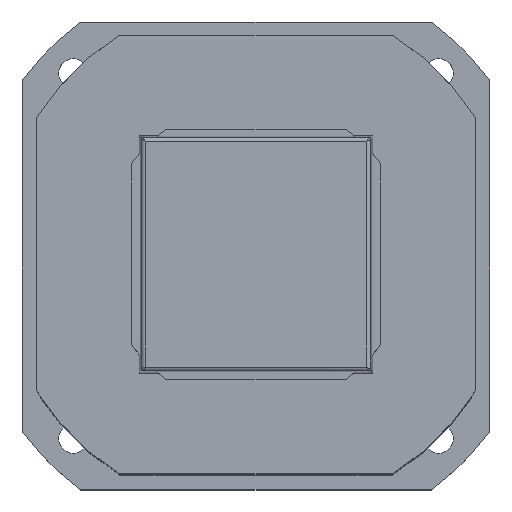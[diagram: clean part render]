
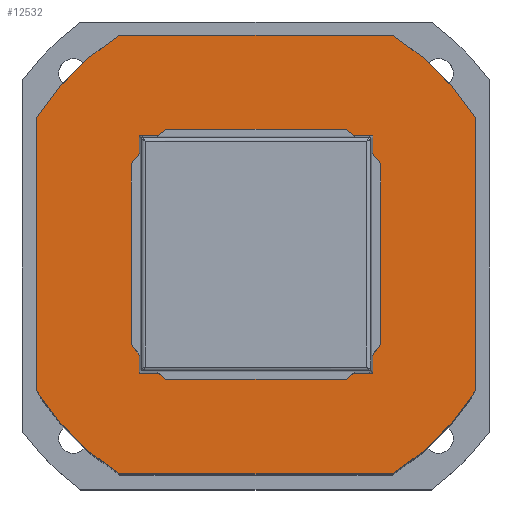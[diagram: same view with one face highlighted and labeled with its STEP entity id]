
A CAD part, top view. The second image highlights one B-rep face of the part: STEP entity #12532.
In plain terms, the highlighted planar face has unit normal (0, 0, 1).
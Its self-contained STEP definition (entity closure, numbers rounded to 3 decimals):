
#3484=CIRCLE('',#13776,132.5);
#3486=CIRCLE('',#13780,132.5);
#3488=CIRCLE('',#13784,132.5);
#3490=CIRCLE('',#13790,132.5);
#4122=VERTEX_POINT('',#17146);
#4123=VERTEX_POINT('',#17148);
#4125=VERTEX_POINT('',#17154);
#4127=VERTEX_POINT('',#17160);
#4129=VERTEX_POINT('',#17166);
#4131=VERTEX_POINT('',#17172);
#4133=VERTEX_POINT('',#17178);
#4135=VERTEX_POINT('',#17184);
#5209=LINE('',#17155,#15058);
#5213=LINE('',#17167,#15062);
#5217=LINE('',#17179,#15066);
#5219=LINE('',#17183,#15068);
#6174=EDGE_CURVE('',#4123,#4122,#3484,.T.);
#6178=EDGE_CURVE('',#4122,#4125,#5209,.T.);
#6181=EDGE_CURVE('',#4125,#4127,#3486,.T.);
#6184=EDGE_CURVE('',#4127,#4129,#5213,.T.);
#6187=EDGE_CURVE('',#4129,#4131,#3488,.T.);
#6190=EDGE_CURVE('',#4131,#4133,#5217,.T.);
#6192=EDGE_CURVE('',#4135,#4123,#5219,.T.);
#6195=EDGE_CURVE('',#4133,#4135,#3490,.T.);
#7993=ORIENTED_EDGE('',*,*,#6190,.T.);
#7994=ORIENTED_EDGE('',*,*,#6195,.T.);
#7995=ORIENTED_EDGE('',*,*,#6192,.T.);
#7996=ORIENTED_EDGE('',*,*,#6174,.T.);
#7997=ORIENTED_EDGE('',*,*,#6178,.T.);
#7998=ORIENTED_EDGE('',*,*,#6181,.T.);
#7999=ORIENTED_EDGE('',*,*,#6184,.T.);
#8000=ORIENTED_EDGE('',*,*,#6187,.T.);
#10810=EDGE_LOOP('',(#7993,#7994,#7995,#7996,#7997,#7998,#7999,#8000));
#11688=FACE_BOUND('',#10810,.T.);
#12532=ADVANCED_FACE('',(#11688),#15916,.T.);
#13776=AXIS2_PLACEMENT_3D('',#17147,#23406,#23407);
#13780=AXIS2_PLACEMENT_3D('',#17161,#23418,#23419);
#13784=AXIS2_PLACEMENT_3D('',#17173,#23429,#23430);
#13790=AXIS2_PLACEMENT_3D('',#17189,#23444,#23445);
#13791=AXIS2_PLACEMENT_3D('',#17190,#23446,$);
#15058=VECTOR('',#23412,1.);
#15062=VECTOR('',#23423,1.);
#15066=VECTOR('',#23434,1.);
#15068=VECTOR('',#23437,1.);
#15916=PLANE('',#13791);
#17146=CARTESIAN_POINT('',(-70.,-112.5,0.));
#17147=CARTESIAN_POINT('',(0.,0.,0.));
#17148=CARTESIAN_POINT('',(-112.5,-70.,0.));
#17154=CARTESIAN_POINT('',(70.,-112.5,0.));
#17155=CARTESIAN_POINT('',(-70.,-112.5,0.));
#17160=CARTESIAN_POINT('',(112.5,-70.,0.));
#17161=CARTESIAN_POINT('',(0.,0.,0.));
#17166=CARTESIAN_POINT('',(112.5,70.,0.));
#17167=CARTESIAN_POINT('',(112.5,-70.,0.));
#17172=CARTESIAN_POINT('',(70.,112.5,0.));
#17173=CARTESIAN_POINT('',(0.,0.,0.));
#17178=CARTESIAN_POINT('',(-70.,112.5,0.));
#17179=CARTESIAN_POINT('',(70.,112.5,0.));
#17183=CARTESIAN_POINT('',(-112.5,70.,0.));
#17184=CARTESIAN_POINT('',(-112.5,70.,0.));
#17189=CARTESIAN_POINT('',(0.,0.,0.));
#17190=CARTESIAN_POINT('',(0.,0.,0.));
#23406=DIRECTION('',(0.,0.,1.));
#23407=DIRECTION('',(132.5,0.,0.));
#23412=DIRECTION('',(1.,0.,0.));
#23418=DIRECTION('',(0.,0.,1.));
#23419=DIRECTION('',(132.5,0.,0.));
#23423=DIRECTION('',(0.,1.,0.));
#23429=DIRECTION('',(0.,0.,1.));
#23430=DIRECTION('',(132.5,0.,0.));
#23434=DIRECTION('',(-1.,0.,0.));
#23437=DIRECTION('',(0.,-1.,0.));
#23444=DIRECTION('',(0.,0.,1.));
#23445=DIRECTION('',(132.5,0.,0.));
#23446=DIRECTION('',(0.,0.,1.));
